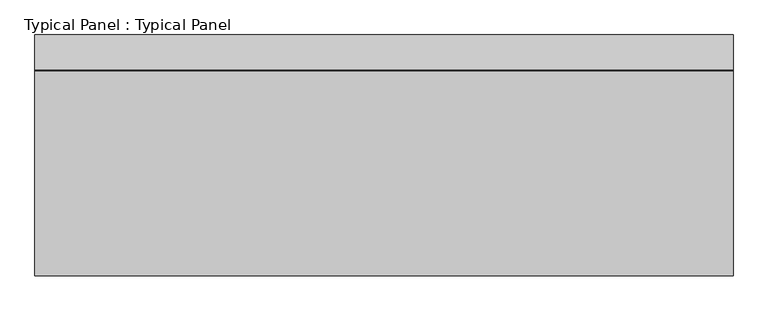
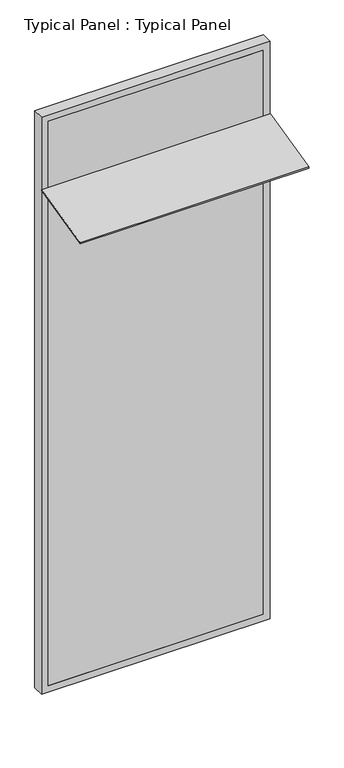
"""IFC4 building model written with IfcOpenShell, lengths in millimetres: plate geometry, Typical Panel : Typical Panel."""

from ifc_helpers import new_model, si_unit, frame, origin, place, context, project, spatial, polyline, outline, extrude, source, transform, mapped, element, save


def typical_panel_typical_panel_fb959741(model_context):
    return source(origin(), model_context, "Body", "SweptSolid", [
        extrude(outline(polyline([(0.0, -450.0), (0.0, 0.0), (1500.0, 0.0), (1500.0, -450.0), (0.0, -450.0)])), frame((750.0, -441.2170186, 3389.0283249), z_axis=(0.0, -0.22495105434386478, 0.9743700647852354), x_axis=(-1.0, 0.0, 0.0)), (0.0, 0.0, 1.0), 10.0),
        extrude(outline(polyline([(0.0, -750.0), (0.0, 750.0), (4000.0, 750.0), (4000.0, -750.0), (0.0, -750.0)]), holes=[polyline([(45.0, 705.0), (45.0, -705.0), (3955.0, -705.0), (3955.0, 705.0), (45.0, 705.0)])]), frame((0.0, -1.5797986, 0.0), z_axis=(0.0, 1.0, 0.0), x_axis=(0.0, 0.0, 1.0)), (0.0, 0.0, 1.0), 75.0),
        extrude(outline(polyline([(705.0, -1.5797986), (-705.0, -1.5797986), (-705.0, 13.4202014), (705.0, 13.4202014), (705.0, -1.5797986)])), frame((0.0, 0.0, 45.0), z_axis=(0.0, 0.0, 1.0), x_axis=(1.0, 0.0, 0.0)), (0.0, 0.0, 1.0), 3910.0),
    ])


if __name__ == "__main__":
    model = new_model("IFC4")
    model_context = context("Model", 3, world=origin())
    ifc_project = project(units=[si_unit("LENGTHUNIT", "METRE", prefix="MILLI")], contexts=[model_context])
    site = spatial("IfcSite", under=ifc_project)
    building = spatial("IfcBuilding", under=site)
    placement = place(None, origin())
    typical_panel_typical_panel_shape = typical_panel_typical_panel_fb959741(model_context)
    element("IfcPlate", 1, ObjectType="Typical Panel : Typical Panel", at=placement, inside=building, context=model_context, shape_type="MappedRepresentation", body=[
        mapped(typical_panel_typical_panel_shape, transform((0.0, 0.0, 0.0), x_axis=(1.0, 0.0, 0.0), y_axis=(0.0, 1.0, 0.0), z_axis=(0.0, 0.0, 1.0))),
    ])
    save(model, "model.ifc")
